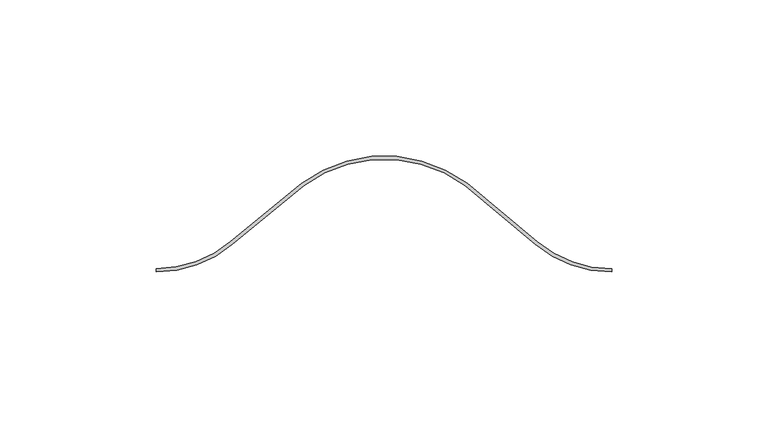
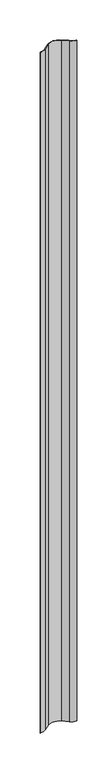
"""IFC4 building model written with IfcOpenShell, lengths in millimetres: plate geometry, Ritmica Vertical 145 : Ritmica Vertical 145."""

import ifcopenshell
import ifcopenshell.guid

model = None  # the IFC model being written
_history = None  # IfcOwnerHistory: only IFC2X3 demands one
_inside = {}  # id of a spatial element -> (the spatial element, [elements in it])
_under = {}  # id of a project, library or spatial element -> (it, [spatial elements below it])
_declared = {}  # id of a project -> (the project, [libraries it declares])
_typed = {}  # id of a type object -> (the type object, [elements of that type])
_made_of = {}  # id of a material, layer set ... -> (it, [elements and type objects made of it])


def new_model(schema):
    """Start an empty IFC model of exactly this schema.

    Asked for "IFC4X3", IfcOpenShell would pick the latest addendum, in which some entities
    have other attributes; the version numbers below select the first issue.
    IFC2X3 requires an IfcOwnerHistory on every rooted entity: one is made here for all.
    """
    global model, _history
    if schema == "IFC4X3":
        model = ifcopenshell.file(schema_version=(4, 3, 0, 0))
    else:
        model = ifcopenshell.file(schema=schema)
    _inside.clear()
    _under.clear()
    _declared.clear()
    _typed.clear()
    _made_of.clear()
    _history = None
    if model.schema == "IFC2X3":
        org = make("IfcOrganization", Name="unknown")
        user = make(
            "IfcPersonAndOrganization",
            ThePerson=make("IfcPerson", FamilyName="unknown"),
            TheOrganization=org,
        )
        app = make(
            "IfcApplication",
            ApplicationDeveloper=org,
            Version="unknown",
            ApplicationFullName="unknown",
            ApplicationIdentifier="unknown",
        )
        _history = make(
            "IfcOwnerHistory",
            OwningUser=user,
            OwningApplication=app,
            ChangeAction="ADDED",
            CreationDate=0,
        )
    return model


def make(cls, **values):
    """One entity of the class cls with the attributes given. An attribute that is None is left unset."""
    return model.create_entity(
        cls, **{name: value for name, value in values.items() if value is not None}
    )


def rooted(cls, **values):
    """An entity with a GlobalId (a new one), such as an element, a storey or a relation."""
    return make(cls, GlobalId=ifcopenshell.guid.new(), OwnerHistory=_history, **values)


def si_unit(unit_type, name, prefix=None):
    """IfcSIUnit, for example si_unit("LENGTHUNIT", "METRE", prefix="MILLI")."""
    return make("IfcSIUnit", UnitType=unit_type, Prefix=prefix, Name=name)


def assignment(units):
    """IfcUnitAssignment: the units of a project."""
    return None if units is None else make("IfcUnitAssignment", Units=units)


def point(xyz):
    """IfcCartesianPoint."""
    return None if xyz is None else make("IfcCartesianPoint", Coordinates=xyz)


def direction(xyz):
    """IfcDirection."""
    return None if xyz is None else make("IfcDirection", DirectionRatios=xyz)


def frame(location, z_axis=None, x_axis=None):
    """IfcAxis2Placement3D, a coordinate frame: its origin and axes. An axis left out is left unset."""
    return make(
        "IfcAxis2Placement3D",
        Location=point(location),
        Axis=direction(z_axis),
        RefDirection=direction(x_axis),
    )


def frame_2d(location, x_axis=None):
    """IfcAxis2Placement2D, a coordinate frame in the plane: its origin and x axis."""
    return make(
        "IfcAxis2Placement2D", Location=point(location), RefDirection=direction(x_axis)
    )


def origin():
    """The frame at (0, 0, 0) with its axes left unset."""
    return frame((0.0, 0.0, 0.0))


def origin_with_axes():
    """The frame at (0, 0, 0) with the z axis (0, 0, 1) and the x axis (1, 0, 0) written out."""
    return frame((0.0, 0.0, 0.0), z_axis=(0.0, 0.0, 1.0), x_axis=(1.0, 0.0, 0.0))


def place(relative_to, where):
    """IfcLocalPlacement: puts the frame where relative to a parent placement (None: the world)."""
    return make(
        "IfcLocalPlacement", PlacementRelTo=relative_to, RelativePlacement=where
    )


def context(
    kind, dimensions, precision=None, world=None, true_north=None, identifier=None
):
    """IfcGeometricRepresentationContext, for example the 3D "Model" context."""
    return make(
        "IfcGeometricRepresentationContext",
        ContextIdentifier=identifier,
        ContextType=kind,
        CoordinateSpaceDimension=dimensions,
        Precision=precision,
        WorldCoordinateSystem=world,
        TrueNorth=true_north,
    )


def project(units=None, contexts=None):
    """IfcProject with its units and contexts."""
    return rooted(
        "IfcProject",
        Name="project",
        RepresentationContexts=contexts,
        UnitsInContext=assignment(units),
    )


def spatial(cls, under=None, at=None, **own):
    """A site, building, storey or space (cls), placed at a placement, below another one or the project."""
    s = rooted(cls, ObjectPlacement=at, **own)
    if under is not None:
        _under.setdefault(under.id(), (under, []))[1].append(s)
    return s


def polyline(points):
    """IfcPolyline through the points."""
    return make("IfcPolyline", Points=[point(p) for p in points])


def circle_curve(where, radius):
    """IfcCircle in the frame where."""
    return make("IfcCircle", Position=where, Radius=radius)


def trimmed(basis, trim1, trim2, sense, master):
    """IfcTrimmedCurve: the piece of a basis curve between two trims."""
    return make(
        "IfcTrimmedCurve",
        BasisCurve=basis,
        Trim1=trim1,
        Trim2=trim2,
        SenseAgreement=sense,
        MasterRepresentation=master,
    )


def segment(curve, same_sense, transition):
    """IfcCompositeCurveSegment."""
    return make(
        "IfcCompositeCurveSegment",
        Transition=transition,
        SameSense=same_sense,
        ParentCurve=curve,
    )


def composite_curve(segments, self_intersect=None):
    """IfcCompositeCurve: segments joined end to end."""
    return make("IfcCompositeCurve", Segments=segments, SelfIntersect=self_intersect)


def outline(outer, holes=None, kind="AREA"):
    """IfcArbitraryClosedProfileDef: a profile drawn as a closed curve; with holes, ...WithVoids."""
    if holes is None:
        return make("IfcArbitraryClosedProfileDef", ProfileType=kind, OuterCurve=outer)
    return make(
        "IfcArbitraryProfileDefWithVoids",
        ProfileType=kind,
        OuterCurve=outer,
        InnerCurves=holes,
    )


def extrude(swept, where, along, depth):
    """IfcExtrudedAreaSolid: the profile swept, set in the frame where, extruded along a direction by depth."""
    return make(
        "IfcExtrudedAreaSolid",
        SweptArea=swept,
        Position=where,
        ExtrudedDirection=direction(along),
        Depth=depth,
    )


def shape(context_of_items, identifier, shape_type, items):
    """IfcShapeRepresentation: the items that make up one representation, for example the "Body"."""
    return make(
        "IfcShapeRepresentation",
        ContextOfItems=context_of_items,
        RepresentationIdentifier=identifier,
        RepresentationType=shape_type,
        Items=items,
    )


def source(mapping_origin, context_of_items, identifier, shape_type, items):
    """IfcRepresentationMap: a shape defined once, which mapped items show again and again."""
    return make(
        "IfcRepresentationMap",
        MappingOrigin=mapping_origin,
        MappedRepresentation=shape(context_of_items, identifier, shape_type, items),
    )


def transform(
    local_origin,
    x_axis=None,
    y_axis=None,
    z_axis=None,
    scale=None,
    scale2=None,
    scale3=None,
    uniform=True,
):
    """IfcCartesianTransformationOperator3D, or its non-uniform kind. x_axis, y_axis, z_axis: its Axis1, 2, 3."""
    if uniform:
        return make(
            "IfcCartesianTransformationOperator3D",
            Axis1=direction(x_axis),
            Axis2=direction(y_axis),
            LocalOrigin=point(local_origin),
            Scale=scale,
            Axis3=direction(z_axis),
        )
    return make(
        "IfcCartesianTransformationOperator3DnonUniform",
        Axis1=direction(x_axis),
        Axis2=direction(y_axis),
        LocalOrigin=point(local_origin),
        Scale=scale,
        Axis3=direction(z_axis),
        Scale2=scale2,
        Scale3=scale3,
    )


def mapped(mapping_source, mapping_target):
    """IfcMappedItem: shows the shape of a source again, moved by a transform."""
    return make(
        "IfcMappedItem", MappingSource=mapping_source, MappingTarget=mapping_target
    )


def made_of(thing, what):
    """Note that an element or type object is made of a material, layer set ...; save() writes the relation."""
    if what is not None:
        _made_of.setdefault(what.id(), (what, []))[1].append(thing)
    return thing


def element(
    cls,
    number,
    at=None,
    inside=None,
    cuts=None,
    type_object=None,
    material=None,
    context=None,
    identifier="Body",
    shape_type=None,
    held_by="IfcProductDefinitionShape",
    body=None,
    shapes=None,
    **own,
):
    """One element of the class cls, such as IfcWall. Its Tag is "e" and its number.

    at: its placement. inside: the storey or other place that contains it. cuts: it is an
    opening in that element (IfcRelVoidsElement). A single representation is given by context,
    identifier, shape_type and body (its items); several are given by shapes. held_by: the class
    of the entity that holds the representations. save() writes the other relations.
    """
    e = rooted(cls, Tag="e%d" % number, ObjectPlacement=at, **own)
    if body is not None:
        shapes = [shape(context, identifier, shape_type, body)]
    if shapes is not None:
        e.Representation = make(held_by, Representations=shapes)
    if inside is not None:
        _inside.setdefault(inside.id(), (inside, []))[1].append(e)
    if cuts is not None:
        rooted(
            "IfcRelVoidsElement", RelatingBuildingElement=cuts, RelatedOpeningElement=e
        )
    if type_object is not None:
        _typed.setdefault(type_object.id(), (type_object, []))[1].append(e)
    return made_of(e, material)


def aggregate(whole, parts):
    """IfcRelAggregates: a whole, such as a stair, and the parts it consists of."""
    return rooted("IfcRelAggregates", RelatingObject=whole, RelatedObjects=parts)


def save(model, path):
    """Write the relations noted so far, then the file.

    IfcRelAggregates (storeys below a building ...), IfcRelContainedInSpatialStructure (elements
    in a storey), IfcRelDefinesByType, IfcRelAssociatesMaterial and IfcRelDeclares: one each for
    every whole, place, type object, material and project.
    """
    for whole, parts in _under.values():
        aggregate(whole, parts)
    for where, things in _inside.values():
        rooted(
            "IfcRelContainedInSpatialStructure",
            RelatedElements=things,
            RelatingStructure=where,
        )
    for kind, things in _typed.values():
        rooted("IfcRelDefinesByType", RelatedObjects=things, RelatingType=kind)
    for what, things in _made_of.values():
        rooted("IfcRelAssociatesMaterial", RelatedObjects=things, RelatingMaterial=what)
    for by, libraries in _declared.values():
        rooted("IfcRelDeclares", RelatingContext=by, RelatedDefinitions=libraries)
    model.write(path)


def plate_852c840c(model_context):
    return source(origin(), model_context, "Body", "SweptSolid", [
        extrude(outline(composite_curve([segment(trimmed(circle_curve(frame_2d((72.6270964, 38.424418)), 37.1314203), [point((48.8582516, 9.8975116))], [point((72.6072392, 1.293003))], True, "CARTESIAN"), True, "CONTINUOUS"), segment(polyline([(72.6072392, 1.293003), (72.6072392, 0.2930029)]), True, "CONTINUOUS"), segment(trimmed(circle_curve(frame_2d((72.6270964, 38.424418)), 38.1314203), [point((72.6072392, 0.2930029))], [point((48.218124, 9.1292429))], False, "CARTESIAN"), True, "CONTINUOUS"), segment(polyline([(48.218124, 9.1292429), (25.8084778, 27.8011381)]), True, "CONTINUOUS"), segment(trimmed(circle_curve(frame_2d((-0.0024199, -6.7663567)), 43.1406321), [point((25.8084778, 27.8011381))], [point((-25.8095273, 27.803968))], True, "CARTESIAN"), True, "CONTINUOUS"), segment(polyline([(-25.8095273, 27.803968), (-48.523535, 9.1344366)]), True, "CONTINUOUS"), segment(trimmed(circle_curve(frame_2d((-72.9292951, 38.4322879)), 38.1314203), [point((-48.523535, 9.1344366))], [point((-72.823198, 0.3010152))], False, "CARTESIAN"), True, "CONTINUOUS"), segment(polyline([(-72.823198, 0.3010152), (-72.8235072, 1.3010183)]), True, "CONTINUOUS"), segment(trimmed(circle_curve(frame_2d((-72.9292951, 38.4322879)), 37.1314203), [point((-72.8235072, 1.3010183))], [point((-49.1635783, 9.9027755))], True, "CARTESIAN"), True, "CONTINUOUS"), segment(polyline([(-49.1635783, 9.9027755), (-26.4292105, 28.5892672)]), True, "CONTINUOUS"), segment(trimmed(circle_curve(frame_2d((-0.0024199, -6.7663567)), 44.1406321), [point((-26.4292105, 28.5892672))], [point((26.4282471, 28.5863694))], False, "CARTESIAN"), True, "CONTINUOUS"), segment(polyline([(26.4282471, 28.5863694), (48.8582516, 9.8975116)]), True, "CONTINUOUS")], self_intersect=False)), origin_with_axes(), (0.0, 0.0, 1.0), 2859.2009216),
    ])


if __name__ == "__main__":
    model = new_model("IFC4")
    model_context = context("Model", 3, world=origin())
    ifc_project = project(units=[si_unit("LENGTHUNIT", "METRE", prefix="MILLI")], contexts=[model_context])
    site = spatial("IfcSite", under=ifc_project)
    building = spatial("IfcBuilding", under=site)
    placement = place(None, origin())
    plate_shape = plate_852c840c(model_context)
    element("IfcPlate", 1, ObjectType="Ritmica Vertical 145 : Ritmica Vertical 145", at=placement, inside=building, context=model_context, shape_type="MappedRepresentation", body=[
        mapped(plate_shape, transform((0.0, 0.0, 0.0), x_axis=(1.0, 0.0, 0.0), y_axis=(0.0, 1.0, 0.0), z_axis=(0.0, 0.0, 1.0))),
    ])
    save(model, "model.ifc")
